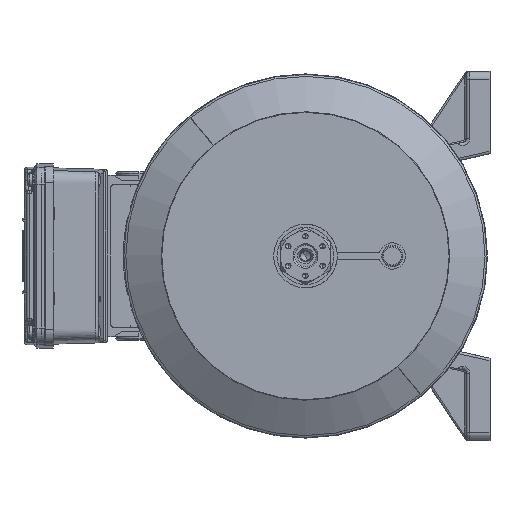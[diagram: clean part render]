
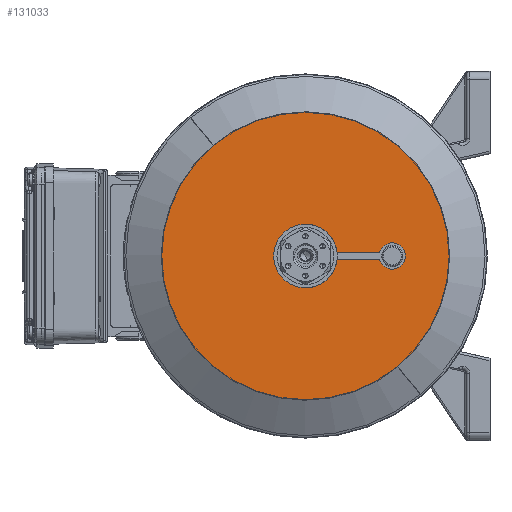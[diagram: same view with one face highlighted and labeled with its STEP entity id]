
A CAD part, left-side view. The second image highlights one B-rep face of the part: STEP entity #131033.
In plain terms, the highlighted planar face has unit normal (-1, 0, 0) as drawn and (0, -1, 0) by its records, which use the part's own axes.
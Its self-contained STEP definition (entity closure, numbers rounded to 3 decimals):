
#3456 = VERTEX_POINT ( 'NONE', #20286 ) ;
#4575 = EDGE_CURVE ( 'NONE', #47098, #61071, #116588, .T. ) ;
#5331 = FACE_OUTER_BOUND ( 'NONE', #35909, .T. ) ;
#14215 = AXIS2_PLACEMENT_3D ( 'NONE', #48897, #129104, #60451 ) ;
#20286 = CARTESIAN_POINT ( 'NONE',  ( 0., 0., 13.5 ) ) ;
#23712 = CARTESIAN_POINT ( 'NONE',  ( 0., 0., 87.5 ) ) ;
#29300 = CARTESIAN_POINT ( 'NONE',  ( 0., 0., -87.5 ) ) ;
#30354 = AXIS2_PLACEMENT_3D ( 'NONE', #47447, #127642, #59000 ) ;
#33960 = CARTESIAN_POINT ( 'NONE',  ( 0., 0., 0. ) ) ;
#35909 = EDGE_LOOP ( 'NONE', ( #105565, #99420 ) ) ;
#40255 = PLANE ( 'NONE',  #50286 ) ;
#42930 = ORIENTED_EDGE ( 'NONE', *, *, #56342, .T. ) ;
#43137 = CARTESIAN_POINT ( 'NONE',  ( 0., 0., 0. ) ) ;
#45540 = DIRECTION ( 'NONE',  ( 0., 0., 1. ) ) ;
#46593 = FACE_BOUND ( 'NONE', #72956, .T. ) ;
#47098 = VERTEX_POINT ( 'NONE', #29300 ) ;
#47447 = CARTESIAN_POINT ( 'NONE',  ( 0., 0., 0. ) ) ;
#48897 = CARTESIAN_POINT ( 'NONE',  ( 0., 0., 0. ) ) ;
#50286 = AXIS2_PLACEMENT_3D ( 'NONE', #108359, #120409, #51767 ) ;
#51767 = DIRECTION ( 'NONE',  ( 0., 0., -1. ) ) ;
#51924 = CIRCLE ( 'NONE', #75806, 87.5 ) ;
#54345 = CIRCLE ( 'NONE', #30354, 13.5 ) ;
#54694 = DIRECTION ( 'NONE',  ( 0., 0., 1. ) ) ;
#56342 = EDGE_CURVE ( 'NONE', #3456, #103403, #54345, .T. ) ;
#59000 = DIRECTION ( 'NONE',  ( 0., 0., 1. ) ) ;
#60451 = DIRECTION ( 'NONE',  ( 0., 0., 1. ) ) ;
#61071 = VERTEX_POINT ( 'NONE', #23712 ) ;
#71864 = CIRCLE ( 'NONE', #137352, 13.5 ) ;
#72388 = EDGE_CURVE ( 'NONE', #103403, #3456, #71864, .T. ) ;
#72956 = EDGE_LOOP ( 'NONE', ( #42930, #141928 ) ) ;
#75806 = AXIS2_PLACEMENT_3D ( 'NONE', #33960, #114138, #45540 ) ;
#99420 = ORIENTED_EDGE ( 'NONE', *, *, #4575, .F. ) ;
#103403 = VERTEX_POINT ( 'NONE', #118906 ) ;
#105565 = ORIENTED_EDGE ( 'NONE', *, *, #121763, .F. ) ;
#108359 = CARTESIAN_POINT ( 'NONE',  ( -87.5, 0., 0. ) ) ;
#114138 = DIRECTION ( 'NONE',  ( 0., 1., 0. ) ) ;
#116588 = CIRCLE ( 'NONE', #14215, 87.5 ) ;
#118906 = CARTESIAN_POINT ( 'NONE',  ( 0., 0., -13.5 ) ) ;
#120409 = DIRECTION ( 'NONE',  ( 0., -1., 0. ) ) ;
#121763 = EDGE_CURVE ( 'NONE', #61071, #47098, #51924, .T. ) ;
#123322 = DIRECTION ( 'NONE',  ( 0., 1., 0. ) ) ;
#127642 = DIRECTION ( 'NONE',  ( 0., 1., 0. ) ) ;
#129104 = DIRECTION ( 'NONE',  ( 0., 1., 0. ) ) ;
#131033 = ADVANCED_FACE ( 'NONE', ( #46593, #5331 ), #40255, .T. ) ;
#137352 = AXIS2_PLACEMENT_3D ( 'NONE', #43137, #123322, #54694 ) ;
#141928 = ORIENTED_EDGE ( 'NONE', *, *, #72388, .T. ) ;
